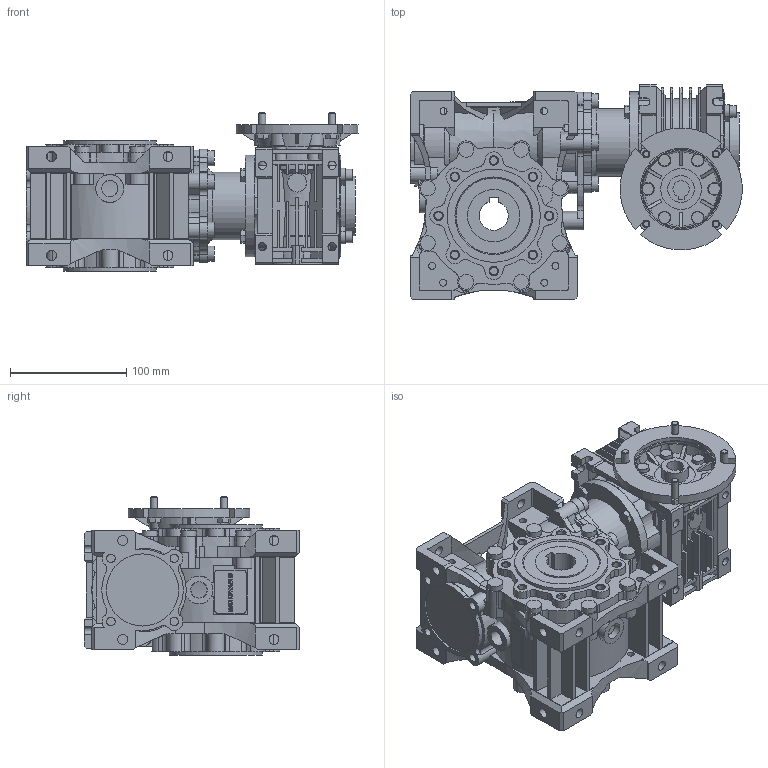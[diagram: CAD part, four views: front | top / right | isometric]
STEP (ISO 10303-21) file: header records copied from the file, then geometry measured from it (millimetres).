
FILE_DESCRIPTION(/* description */ ('STEP AP214'),/* implementation_level */ '2;1');
FILE_NAME(/* name */ 'NMRVP-NMRVP 040-063 100 (10x10) BS2 105x14 18 NO 25 NO NO - - NO - - - NO NO - --(--------)',/* time_stamp */ '2024-10-23T11:17:50+02:00',/* author */ ('License CC BY-ND 4.0'),/* organization */ ('CADENAS'),/* preprocessor_version */ 'ST-DEVELOPER v19.3',/* originating_system */ 'PARTsolutions',/* authorisation */ ' ');
FILE_SCHEMA (('AUTOMOTIVE_DESIGN {1 0 10303 214 3 1 1}'));
Products named in the file (11): NMRVP-NMRVP 040-063 100 (10x10) BS2 105x14 18 NO 25 NO NO - - NO - - 
- NO NO - --(--------); W.063.01.M; 063-25 (112); W.063.14.19.M-p; 040-063-TRA; W.040.01.M; 040-18 (78); VB 040-14 (14)-p; 4071 B14; Corona 40-p; 63-45
Assembly tree (10 placements, depth 2):
  NMRVP-NMRVP 040-063 100 (10x10) BS2 105x14 18 NO 25 NO NO - - NO - - 
- NO NO - --(--------)
    W.063.01.M
    063-25 (112)
    W.063.14.19.M-p
    040-063-TRA
    W.040.01.M
    040-18 (78)
    VB 040-14 (14)-p
    4071 B14
    Corona 40-p
    63-45
Bounding box: 285.33 x 185 x 136 mm (x, y, z)
Volume: 2669319.5 mm3; surface area: 482988.4 mm2
Topology: 10 solids, 14 shells, 2279 faces, 6203 edges, 4073 vertices
Faces by surface type: plane 1427, cylinder 728, cone 120, torus 4
Full cylindrical faces by diameter (mm): 4.917 x8, 5.55 x3, 6 x16, 6.647 x16, 7 x6, 7.26 x12, 7.8 x1, 8.5 x14, 10 x10, 10.8 x4, 11 x6, 13 x14, 14 x3, 16 x1, 23 x2, 24 x1, 25 x1, 27 x1, 28 x1, 30 x2, 35 x2, 36 x1, 37 x1, 40 x1, 44 x1, 45 x3, 47 x1, 58 x1, 60 x3, 62 x3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
Entity records: 87136 total; most frequent: CARTESIAN_POINT 13660, DIRECTION 12048, ORIENTED_EDGE 11918, EDGE_CURVE 5959, AXIS2_PLACEMENT_3D 4196, VERTEX_POINT 4026, LINE 3656, VECTOR 3656
